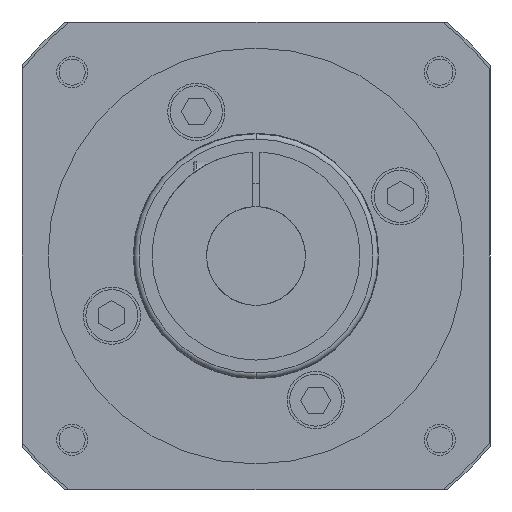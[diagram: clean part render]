
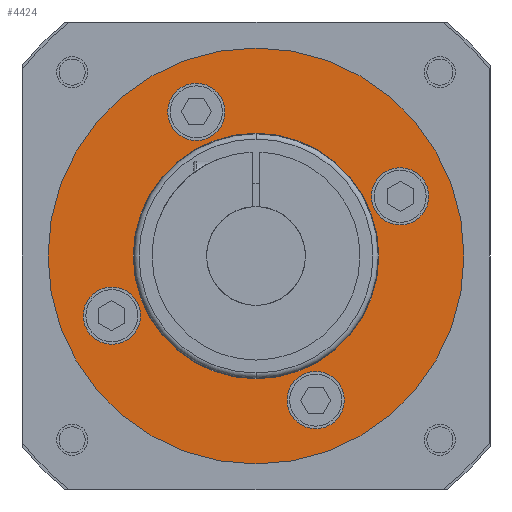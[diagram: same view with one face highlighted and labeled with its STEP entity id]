
A CAD part, left-side view. The second image highlights one B-rep face of the part: STEP entity #4424.
In plain terms, the highlighted planar face has unit normal (-1, 0, 0).
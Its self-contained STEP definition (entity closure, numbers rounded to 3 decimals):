
#954=CARTESIAN_POINT('',(-147.6,0.,0.));
#955=DIRECTION('',(-1.,0.,0.));
#956=DIRECTION('',(0.,0.,-1.));
#957=AXIS2_PLACEMENT_3D('',#954,#955,#956);
#959=CARTESIAN_POINT('',(-147.6,0.,0.));
#960=DIRECTION('',(1.,0.,0.));
#961=DIRECTION('',(0.,0.,-1.));
#962=AXIS2_PLACEMENT_3D('',#959,#960,#961);
#964=CARTESIAN_POINT('',(-147.6,-11.481,-27.716));
#965=DIRECTION('',(-1.,0.,0.));
#966=DIRECTION('',(0.,1.,0.));
#967=AXIS2_PLACEMENT_3D('',#964,#965,#966);
#969=CARTESIAN_POINT('',(-147.6,-11.481,-27.716));
#970=DIRECTION('',(-1.,0.,0.));
#971=DIRECTION('',(0.,-1.,0.));
#972=AXIS2_PLACEMENT_3D('',#969,#970,#971);
#974=CARTESIAN_POINT('',(-147.6,27.716,-11.481));
#975=DIRECTION('',(-1.,0.,0.));
#976=DIRECTION('',(0.,1.,0.));
#977=AXIS2_PLACEMENT_3D('',#974,#975,#976);
#979=CARTESIAN_POINT('',(-147.6,27.716,-11.481));
#980=DIRECTION('',(-1.,0.,0.));
#981=DIRECTION('',(0.,-1.,0.));
#982=AXIS2_PLACEMENT_3D('',#979,#980,#981);
#984=CARTESIAN_POINT('',(-147.6,11.481,27.716));
#985=DIRECTION('',(-1.,0.,0.));
#986=DIRECTION('',(0.,1.,0.));
#987=AXIS2_PLACEMENT_3D('',#984,#985,#986);
#989=CARTESIAN_POINT('',(-147.6,11.481,27.716));
#990=DIRECTION('',(-1.,0.,0.));
#991=DIRECTION('',(0.,-1.,0.));
#992=AXIS2_PLACEMENT_3D('',#989,#990,#991);
#994=CARTESIAN_POINT('',(-147.6,-27.716,11.481));
#995=DIRECTION('',(-1.,0.,0.));
#996=DIRECTION('',(0.,1.,0.));
#997=AXIS2_PLACEMENT_3D('',#994,#995,#996);
#999=CARTESIAN_POINT('',(-147.6,-27.716,11.481));
#1000=DIRECTION('',(-1.,0.,0.));
#1001=DIRECTION('',(0.,-1.,0.));
#1002=AXIS2_PLACEMENT_3D('',#999,#1000,#1001);
#1004=CARTESIAN_POINT('',(-147.6,0.,0.));
#1005=DIRECTION('',(1.,0.,0.));
#1006=DIRECTION('',(0.,0.,-1.));
#1007=AXIS2_PLACEMENT_3D('',#1004,#1005,#1006);
#1017=CARTESIAN_POINT('',(-147.6,0.,0.));
#1018=DIRECTION('',(-1.,0.,0.));
#1019=DIRECTION('',(0.,0.,-1.));
#1020=AXIS2_PLACEMENT_3D('',#1017,#1018,#1019);
#2853=CARTESIAN_POINT('',(-147.6,22.216,-11.481));
#2854=VERTEX_POINT('',#2853);
#2855=CARTESIAN_POINT('',(-147.6,-22.216,11.481));
#2856=VERTEX_POINT('',#2855);
#2994=CARTESIAN_POINT('',(-147.6,0.,-40.));
#2996=VERTEX_POINT('',#2994);
#2997=CARTESIAN_POINT('',(-147.6,0.,-23.6));
#2999=VERTEX_POINT('',#2997);
#3002=CARTESIAN_POINT('',(-147.6,0.,40.));
#3004=VERTEX_POINT('',#3002);
#3005=CARTESIAN_POINT('',(-147.6,0.,23.6));
#3007=VERTEX_POINT('',#3005);
#3017=CARTESIAN_POINT('',(-147.6,-5.981,-27.716));
#3018=CARTESIAN_POINT('',(-147.6,-16.981,-27.716));
#3019=VERTEX_POINT('',#3017);
#3020=VERTEX_POINT('',#3018);
#3021=CARTESIAN_POINT('',(-147.6,33.216,-11.481));
#3022=VERTEX_POINT('',#3021);
#3023=CARTESIAN_POINT('',(-147.6,16.981,27.716));
#3024=CARTESIAN_POINT('',(-147.6,5.981,27.716));
#3025=VERTEX_POINT('',#3023);
#3026=VERTEX_POINT('',#3024);
#3027=CARTESIAN_POINT('',(-147.6,-33.216,11.481));
#3028=VERTEX_POINT('',#3027);
#4385=CARTESIAN_POINT('',(-147.6,0.,0.));
#4386=DIRECTION('',(1.,0.,0.));
#4387=DIRECTION('',(0.,0.,1.));
#4388=AXIS2_PLACEMENT_3D('',#4385,#4386,#4387);
#4389=PLANE('',#4388);
#4390=ORIENTED_EDGE('',*,*,#4378,.F.);
#4391=ORIENTED_EDGE('',*,*,#4367,.T.);
#4392=EDGE_LOOP('',(#4390,#4391));
#4393=FACE_OUTER_BOUND('',#4392,.F.);
#4395=ORIENTED_EDGE('',*,*,#4394,.F.);
#4397=ORIENTED_EDGE('',*,*,#4396,.T.);
#4398=EDGE_LOOP('',(#4395,#4397));
#4399=FACE_BOUND('',#4398,.F.);
#4401=ORIENTED_EDGE('',*,*,#4400,.T.);
#4403=ORIENTED_EDGE('',*,*,#4402,.T.);
#4404=EDGE_LOOP('',(#4401,#4403));
#4405=FACE_BOUND('',#4404,.F.);
#4407=ORIENTED_EDGE('',*,*,#4406,.T.);
#4409=ORIENTED_EDGE('',*,*,#4408,.T.);
#4410=EDGE_LOOP('',(#4407,#4409));
#4411=FACE_BOUND('',#4410,.F.);
#4413=ORIENTED_EDGE('',*,*,#4412,.T.);
#4415=ORIENTED_EDGE('',*,*,#4414,.T.);
#4416=EDGE_LOOP('',(#4413,#4415));
#4417=FACE_BOUND('',#4416,.F.);
#4419=ORIENTED_EDGE('',*,*,#4418,.T.);
#4421=ORIENTED_EDGE('',*,*,#4420,.T.);
#4422=EDGE_LOOP('',(#4419,#4421));
#4423=FACE_BOUND('',#4422,.F.);
#958=CIRCLE('',#957,40.);
#963=CIRCLE('',#962,40.);
#968=CIRCLE('',#967,5.5);
#973=CIRCLE('',#972,5.5);
#978=CIRCLE('',#977,5.5);
#983=CIRCLE('',#982,5.5);
#988=CIRCLE('',#987,5.5);
#993=CIRCLE('',#992,5.5);
#998=CIRCLE('',#997,5.5);
#1003=CIRCLE('',#1002,5.5);
#1008=CIRCLE('',#1007,23.6);
#1021=CIRCLE('',#1020,23.6);
#4367=EDGE_CURVE('',#2996,#3004,#963,.T.);
#4378=EDGE_CURVE('',#2996,#3004,#958,.T.);
#4394=EDGE_CURVE('',#2999,#3007,#1008,.T.);
#4396=EDGE_CURVE('',#2999,#3007,#1021,.T.);
#4400=EDGE_CURVE('',#3019,#3020,#968,.T.);
#4402=EDGE_CURVE('',#3020,#3019,#973,.T.);
#4406=EDGE_CURVE('',#3022,#2854,#978,.T.);
#4408=EDGE_CURVE('',#2854,#3022,#983,.T.);
#4412=EDGE_CURVE('',#3025,#3026,#988,.T.);
#4414=EDGE_CURVE('',#3026,#3025,#993,.T.);
#4418=EDGE_CURVE('',#2856,#3028,#998,.T.);
#4420=EDGE_CURVE('',#3028,#2856,#1003,.T.);
#4424=ADVANCED_FACE('',(#4393,#4399,#4405,#4411,#4417,#4423),#4389,.F.);
